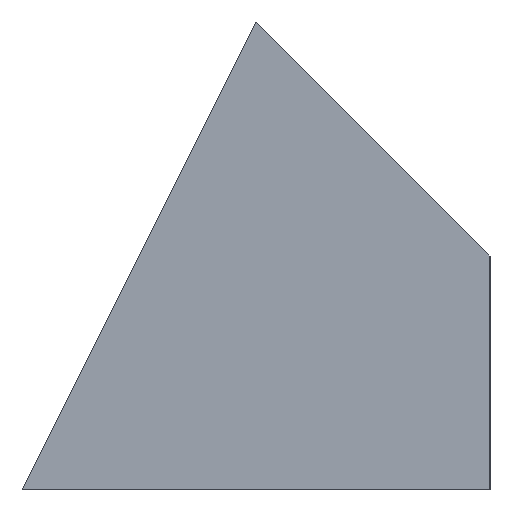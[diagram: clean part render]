
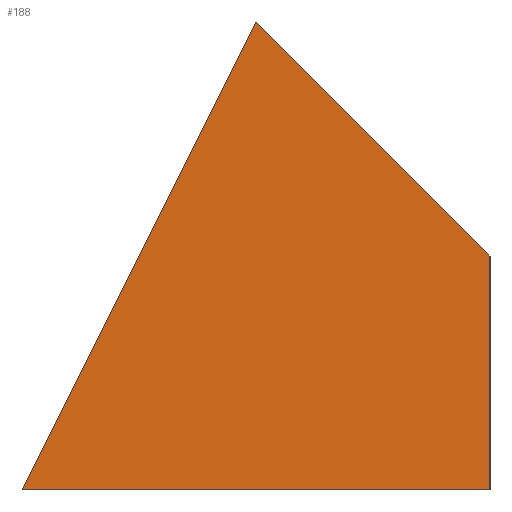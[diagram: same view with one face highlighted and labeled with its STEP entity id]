
A CAD part, left-side view. The second image highlights one B-rep face of the part: STEP entity #188.
In plain terms, the highlighted planar face has unit normal (-1, 0, 0).
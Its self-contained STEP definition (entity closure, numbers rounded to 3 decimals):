
#22=FACE_OUTER_BOUND('',#32,.T.);
#32=EDGE_LOOP('',(#156,#157,#158,#159));
#52=LINE('',#305,#76);
#54=LINE('',#309,#78);
#56=LINE('',#313,#80);
#57=LINE('',#314,#81);
#76=VECTOR('',#252,10.);
#78=VECTOR('',#256,10.);
#80=VECTOR('',#260,10.);
#81=VECTOR('',#261,10.);
#95=VERTEX_POINT('',#302);
#96=VERTEX_POINT('',#304);
#97=VERTEX_POINT('',#308);
#98=VERTEX_POINT('',#312);
#116=EDGE_CURVE('',#96,#95,#52,.T.);
#118=EDGE_CURVE('',#97,#96,#54,.T.);
#120=EDGE_CURVE('',#95,#98,#56,.T.);
#121=EDGE_CURVE('',#98,#97,#57,.T.);
#156=ORIENTED_EDGE('',*,*,#120,.T.);
#157=ORIENTED_EDGE('',*,*,#121,.T.);
#158=ORIENTED_EDGE('',*,*,#118,.T.);
#159=ORIENTED_EDGE('',*,*,#116,.T.);
#178=PLANE('',#218);
#188=ADVANCED_FACE('',(#22),#178,.T.);
#218=AXIS2_PLACEMENT_3D('',#311,#258,#259);
#252=DIRECTION('',(0.,0.447,-0.894));
#256=DIRECTION('',(0.,0.707,0.707));
#258=DIRECTION('center_axis',(-1.,0.,0.));
#259=DIRECTION('ref_axis',(0.,0.,1.));
#260=DIRECTION('',(0.,-1.,0.));
#261=DIRECTION('',(0.,0.,1.));
#302=CARTESIAN_POINT('',(-50.,30.,-30.));
#304=CARTESIAN_POINT('',(-50.,0.,30.));
#305=CARTESIAN_POINT('',(-50.,30.,-30.));
#308=CARTESIAN_POINT('',(-50.,-30.,0.));
#309=CARTESIAN_POINT('',(-50.,0.,30.));
#311=CARTESIAN_POINT('Origin',(-50.,0.,0.));
#312=CARTESIAN_POINT('',(-50.,-30.,-30.));
#313=CARTESIAN_POINT('',(-50.,-30.,-30.));
#314=CARTESIAN_POINT('',(-50.,-30.,30.));
